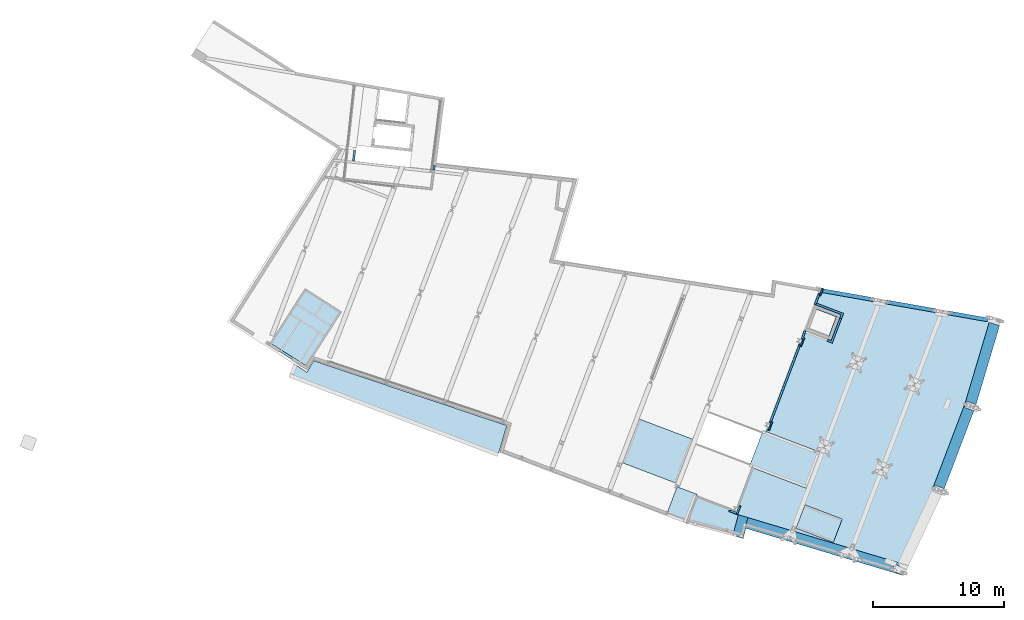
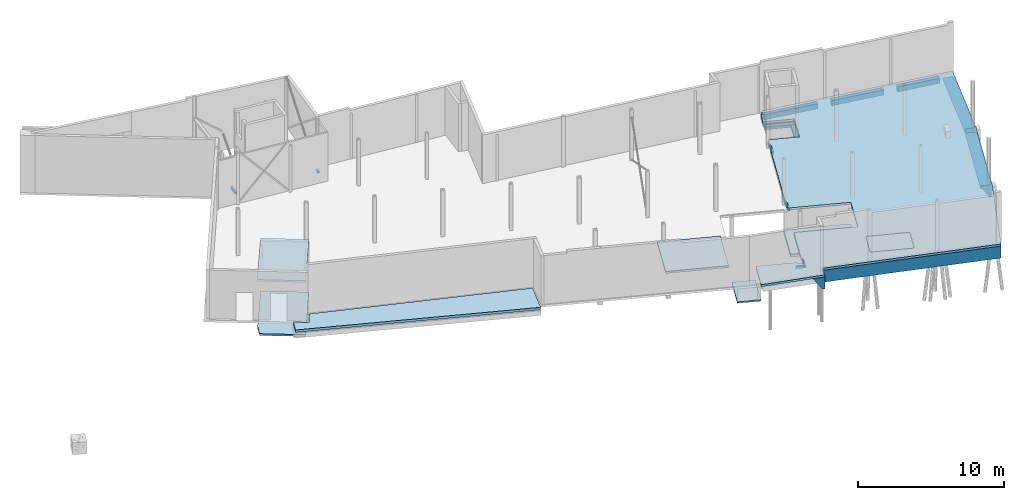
# One storey, part 41 of 46: 17 beams, 8 slabs, 1 opening.
"""IFC2X3 building model written with IfcOpenShell, lengths in millimetres."""

from ifc_helpers import new_model, entity, si_unit, converted_unit, derived_unit, direction, frame, frame_2d, origin, origin_2d_with_axis, place, context, subcontext, project, spatial, polyline, rectangle, i_section, outline, extrude, boolean, clip, halfspace, bounded_halfspace, faceted_brep, source, transform, mapped, material, layer, layer_set, layer_usage, type_object, type_shapes, element, save


model = new_model("IFC2X3")

# Units and contexts
model_context = context("Model", 3, precision=0.01, world=origin(), true_north=direction((6.123233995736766e-17, 1.0)))
body_context = subcontext(model_context, "Body", "Model", "MODEL_VIEW")
ifc_project = project(units=[si_unit("LENGTHUNIT", "METRE", prefix="MILLI"), converted_unit("PLANEANGLEUNIT", "DEGREE", entity("IfcPlaneAngleMeasure", 0.017453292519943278), si_unit("PLANEANGLEUNIT", "RADIAN"), dimensions=[0, 0, 0, 0, 0, 0, 0]), si_unit("AREAUNIT", "SQUARE_METRE"), derived_unit("THERMALTRANSMITTANCEUNIT", [(si_unit("MASSUNIT", "GRAM", prefix="KILO"), 1), (si_unit("THERMODYNAMICTEMPERATUREUNIT", "KELVIN"), -1), (si_unit("TIMEUNIT", "SECOND"), -3)])], contexts=[model_context])

# Site, building, storey
site_placement = place(None, frame((-72937.88054949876, 11621.45624098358, 0.0), z_axis=(0.0, 0.0, 1.0), x_axis=(0.9346418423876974, -0.35559053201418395, 0.0)))
site = spatial("IfcSite", under=ifc_project, at=site_placement, Name="Default", CompositionType="ELEMENT")
building_placement = place(site_placement, origin())
building = spatial("IfcBuilding", under=site, at=building_placement, CompositionType="ELEMENT")
storey_placement = place(building_placement, origin())
storey = spatial("IfcBuildingStorey", under=building, at=storey_placement, Name="00 begane grond", CompositionType="ELEMENT", Elevation=0.0)

# Beams
ifc_material_1 = material(Name="beton_gewapend_ihw")
beam_type_1 = type_object("IfcBeamType", Name="650x600mm", PredefinedType="BEAM")
beam_1_placement = place(storey_placement, frame((54024.99652518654, 13888.496124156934, -230.0), z_axis=(0.0, 0.0, 1.0), x_axis=(0.9973760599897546, 0.0723947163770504, 0.0)))
element("IfcBeam", 1, at=beam_1_placement, inside=storey, type_object=beam_type_1, material=ifc_material_1, Name="16.12_Beton balk", ObjectType="i.h.w.g. versterkte betonnen strook", context=body_context, shape_type="Brep", body=[
    faceted_brep([(60.35885689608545, 160.61884177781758, -1000.0), (60.35885689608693, -4.381158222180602, -1000.0), (60.358856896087, -4.381158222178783, 0.0), (60.35885689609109, 831.559012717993, 0.0), (3346.0760033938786, 831.5590127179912, 0.0), (3873.2242039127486, 831.5590127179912, 0.0), (8002.533172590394, 831.5590127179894, 0.0), (8692.066759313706, 831.5590127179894, 0.0), (12042.971070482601, 831.5590127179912, 0.0), (12887.956598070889, 831.559012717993, 0.0), (12837.613642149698, 490.2664680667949, -508.6780601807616), (12264.649775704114, 574.7825089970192, -382.7114768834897), (11848.318389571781, 636.1942009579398, -291.1806748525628), (11778.16781136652, 160.61884177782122, -1000.0), (9110.536932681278, 160.61884177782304, -1000.0), (7506.3275835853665, 160.61884177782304, -1000.0), (4067.3037914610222, 160.6188417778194, -1000.0), (3064.6729482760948, 160.61884177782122, -1000.0), (11775.354523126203, 141.54657466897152, -1000.0), (12764.649775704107, -4.381158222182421, -1000.0), (144.9886646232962, -4.381158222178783, -1000.0), (12764.649775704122, -4.38115822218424, 0.0), (144.98866462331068, -4.381158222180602, 0.0), (12837.613642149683, 490.26646806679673, 0.0), (11775.354523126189, 141.54657466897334, 0.0), (11848.318389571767, 636.1942009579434, 0.0)], [[[0, 1, 2, 3]], [[0, 3, 4, 5, 6, 7, 8, 9, 10, 11, 12, 13, 14, 15, 16, 17]], [[1, 0, 17, 16, 15, 14, 13, 18, 19, 20]], [[1, 20, 19, 21, 22, 2]], [[10, 9, 23]], [[3, 2, 22, 21, 24, 25, 23, 9, 8, 7, 6, 5, 4]], [[25, 12, 11, 10, 23]], [[12, 25, 24, 18, 13]], [[18, 24, 21, 19]]]),
])
beam_2_placement = place(storey_placement, frame((53254.13367415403, 13008.146273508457, -1230.0), z_axis=(0.0, 0.0, 1.0), x_axis=(-0.09778707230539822, 0.9952073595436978, 0.0)))
element("IfcBeam", 2, at=beam_2_placement, inside=storey, type_object=beam_type_1, material=ifc_material_1, Name="16.12_Beton balk", ObjectType="i.h.w.g. versterkte betonnen strook", context=body_context, shape_type="Brep", body=[
    faceted_brep([(961.9354018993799, -833.0851545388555, 0.0), (-11.622068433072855, -833.0851545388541, 0.0), (-14.078752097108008, -450.64925710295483, 570.0), (-15.932039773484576, -162.14498359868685, 1000.0), (284.0741499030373, -162.14498359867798, 1000.0), (1650.1964644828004, -162.1449835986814, 1000.0), (794.8323850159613, -913.4828292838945, 0.0), (792.6757864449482, -998.0851545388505, 0.0), (-10.562144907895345, -998.0851545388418, 0.0), (959.7788033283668, -917.687479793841, 0.0), (792.675786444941, -998.0851545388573, 1000.0), (-10.562144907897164, -998.0851545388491, 1000.0), (794.8323850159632, -913.4828292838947, 1000.0), (1630.501094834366, -934.7848672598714, 1000.0)], [[[0, 1, 2, 3, 4, 5]], [[6, 7, 8, 1, 0, 9]], [[8, 7, 10, 11]], [[7, 6, 12, 10]], [[1, 8, 11, 3, 2]], [[6, 9, 13, 12]], [[9, 0, 5, 13]], [[5, 4, 3, 11, 10, 12, 13]]]),
])
beam_3_placement = place(storey_placement, frame((66444.05998464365, 21898.50671689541, -1230.0), z_axis=(0.0, 0.0, 1.0), x_axis=(0.0, 1.0, 0.0)))
element("IfcBeam", 3, at=beam_3_placement, inside=storey, type_object=beam_type_1, material=ifc_material_1, Name="16.12_Beton balk", ObjectType="i.h.w.g. versterkte betonnen strook", context=body_context, shape_type="Brep", body=[
    faceted_brep([(3.18091874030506, 0.0, 1000.0), (6866.860322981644, 0.0, 1000.0), (6870.0412417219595, -85.94017094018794, 871.9108280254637), (6611.493283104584, -85.94017094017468, 871.9108280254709), (6611.493283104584, -670.9401709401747, 0.0), (231.49328310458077, -670.9401709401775, 0.0), (231.49328310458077, -85.94017094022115, 871.9108280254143), (0.0, -85.94017094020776, 871.9108280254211), (231.4932831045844, -835.9401709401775, 0.0), (6611.493283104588, -835.9401709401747, 0.0), (231.4932831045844, -835.9401709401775, 1000.0), (6611.493283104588, -835.9401709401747, 1000.0), (0.0, -85.94017094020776, 1000.0), (6870.0412417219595, -85.9401709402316, 1000.0), (231.49328310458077, -85.9401709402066, 1000.0), (6611.493283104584, -85.94017094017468, 1000.0)], [[[0, 1, 2, 3, 4, 5, 6, 7]], [[8, 5, 4, 9]], [[10, 8, 9, 11]], [[0, 7, 12]], [[2, 1, 13]], [[1, 0, 12, 14, 10, 11, 15, 13]], [[6, 5, 8, 10, 14]], [[3, 15, 11, 9, 4]], [[6, 14, 12, 7]], [[15, 3, 2, 13]]]),
])
beam_4_placement = place(storey_placement, frame((67280.00015558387, 28796.307841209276, -60.0), z_axis=(0.0, 0.0, 1.0), x_axis=(-0.07392507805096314, 0.9972637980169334, 0.0)))
element("IfcBeam", 4, at=beam_4_placement, inside=storey, type_object=beam_type_1, material=ifc_material_1, Name="16.12_Beton balk", ObjectType="i.h.w.g. versterkte betonnen strook", context=body_context, shape_type="SweptSolid", body=[
    clip(clip(clip(extrude(outline(polyline([(-500.0, -250.23504273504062), (500.0, -250.23504273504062), (500.0, -85.23504273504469), (-500.0, 585.7051282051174), (-500.0, -250.23504273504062)])), frame((27.759882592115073, 250.2350427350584, -670.0), z_axis=(1.0, 0.0, 0.0), x_axis=(0.0, 0.0, -1.0)), (0.0, 0.0, 1.0), 6513.466296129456), halfspace(frame((35.16251794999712, 950.0, 0.0), z_axis=(-0.999315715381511, 0.036987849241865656, 0.0), x_axis=(-0.036987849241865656, -0.999315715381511, 0.0)), False)), bounded_halfspace(frame((194.62618436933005, -265.11315902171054, 0.0), z_axis=(-0.9972637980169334, 0.07392507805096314, 0.0), x_axis=(0.0, 0.0, -1.0)), False, frame((27.759882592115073, 250.2350427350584, -670.0), z_axis=(1.0, 0.0, 0.0), x_axis=(0.0, 0.0, -1.0)), polyline([(-345.3073218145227, 481.9155962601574), (500.0, -85.23504273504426), (500.0, -250.2350427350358), (-500.0, -250.23504273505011), (-500.0, 481.91559626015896), (-345.3073218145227, 481.9155962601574)]))), bounded_halfspace(frame((268.5512624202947, 732.1506389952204, 0.0), z_axis=(-0.07392507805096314, -0.9972637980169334, 0.0), x_axis=(0.0, 0.0, -1.0)), False, frame((27.759882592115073, 250.2350427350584, -670.0), z_axis=(1.0, 0.0, 0.0), x_axis=(0.0, 0.0, -1.0)), polyline([(-345.3073218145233, 481.9155962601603), (-500.0, 481.91559626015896), (-500.0, 499.764957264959), (-371.9108280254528, 499.76495726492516), (-345.3073218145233, 481.9155962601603)]))),
])
beam_type_2 = type_object("IfcBeamType", Name="300x300mm", PredefinedType="BEAM", material=ifc_material_1)
shared_shape = source(origin(), body_context, "Body", "SweptSolid", [
    clip(extrude(rectangle(XDim=430.0000000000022, YDim=300.00000000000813, at=frame_2d((-1.1368683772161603e-13, -2.1316282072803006e-12), x_axis=(1.0, 0.0))), frame((53186.85544368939, 32989.17978897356, -445.0), z_axis=(0.9822397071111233, 0.18763037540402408, 0.0), x_axis=(0.0, 0.0, 1.0)), (0.0, 0.0, 1.0), 3943.295752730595), halfspace(frame((53215.0, 32800.3699589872, -230.0), z_axis=(-1.0, 0.0, 0.0), x_axis=(0.0, 0.0, -1.0)), False)),
    clip(extrude(rectangle(XDim=430.0000000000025, YDim=300.00000000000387, at=frame_2d((-1.4210854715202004e-13, 0.0), x_axis=(1.0, 0.0))), frame((62772.35681601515, 34820.23101598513, -445.0), z_axis=(0.9822397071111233, 0.18763037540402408, 0.0), x_axis=(0.0, 0.0, 1.0)), (0.0, 0.0, 1.0), 3087.4735184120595), halfspace(frame((65799.17570175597, 35245.710825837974, -60.0), z_axis=(0.9972637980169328, 0.07392507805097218, 0.0), x_axis=(0.0, 0.0, -1.0)), False)),
    extrude(rectangle(XDim=430.0000000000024, YDim=299.9999999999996, at=frame_2d((-1.2789769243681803e-13, 2.1316282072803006e-12), x_axis=(1.0, 0.0))), frame((58042.35681601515, 33916.69222679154, -445.0), z_axis=(0.9822397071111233, 0.18763037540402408, 0.0), x_axis=(0.0, 0.0, 1.0)), (0.0, 0.0, 1.0), 3815.5251368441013),
])
type_shapes(beam_type_2, [shared_shape])
beam_5_placement = place(storey_placement, origin())
element("IfcBeam", 5, at=beam_5_placement, inside=storey, type_object=beam_type_2, material=ifc_material_1, Name="16.12_Beton balk", ObjectType="i.h.w.g. betonnen balk", context=body_context, shape_type="MappedRepresentation", body=[
    mapped(shared_shape, transform((0.0, 0.0, 0.0), scale=1.0)),
])
beam_type_3 = type_object("IfcBeamType", Name="130x200mm", PredefinedType="BEAM")
beam_6_placement = place(storey_placement, frame((53065.0, 14645.0, -430.0), z_axis=(0.0, 0.0, 1.0), x_axis=(0.0, -1.0, 0.0)))
element("IfcBeam", 6, at=beam_6_placement, inside=storey, type_object=beam_type_3, material=ifc_material_1, Name="16.12_Beton balk", ObjectType="i.h.w.g. betonnen balk", context=body_context, shape_type="Brep", body=[
    faceted_brep([(-710.0, 130.0, 200.0), (-710.0, 130.0, 0.0), (-710.0, 15.0, 0.0), (-710.0, 15.0, 200.0), (0.0, 130.0, 200.0), (-580.0, 15.0, 200.0), (-580.0, 0.0, 200.0), (-130.0, 0.0, 200.0), (0.0, 0.0, 200.0), (0.0, 130.0, 0.0), (0.0, 0.0, 0.0), (-130.0, 0.0, 0.0), (-580.0, 0.0, 0.0), (-580.0, 15.0, 0.0)], [[[0, 1, 2, 3]], [[4, 0, 3, 5, 6, 7, 8]], [[1, 0, 4, 9]], [[1, 9, 10, 11, 12, 13, 2]], [[10, 8, 7, 6, 12, 11]], [[5, 13, 12, 6]], [[13, 5, 3, 2]], [[4, 8, 10, 9]]]),
])
beam_7_placement = place(storey_placement, frame((52485.0, 14645.0, -430.0), z_axis=(0.0, 0.0, 1.0), x_axis=(-1.0, 0.0, 0.0)))
element("IfcBeam", 7, at=beam_7_placement, inside=storey, type_object=beam_type_3, material=ifc_material_1, Name="16.12_Beton balk", ObjectType="i.h.w.g. betonnen balk", context=body_context, shape_type="Brep", body=[
    faceted_brep([(0.0, 0.0, 0.0), (0.0, 0.0, 200.0), (0.0, -115.0, 200.0), (0.0, -115.0, 0.0), (-580.0, 0.0, 200.0), (-580.0, -130.0, 200.0), (-130.0, -130.0, 200.0), (-130.0, -115.0, 200.0), (-580.0, 0.0, 0.0), (-580.0, -130.0, 0.0), (-130.0, -115.0, 0.0), (-130.0, -130.0, 0.0)], [[[0, 1, 2, 3]], [[4, 5, 6, 7, 2, 1]], [[1, 0, 8, 4]], [[9, 8, 0, 3, 10, 11]], [[5, 9, 11, 6]], [[5, 4, 8, 9]], [[10, 7, 6, 11]], [[7, 10, 3, 2]]]),
])
beam_8_placement = place(storey_placement, frame((53195.0, 22235.0, -230.0), z_axis=(0.0, 0.0, 1.0), x_axis=(0.0, -1.0, 0.0)))
element("IfcBeam", 8, at=beam_8_placement, inside=storey, type_object=beam_type_3, material=ifc_material_1, Name="16.12_Beton balk", ObjectType="i.h.w.g. betonnen balk", context=body_context, shape_type="SweptSolid", body=[
    extrude(rectangle(XDim=200.00000000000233, YDim=129.99999999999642, at=frame_2d((-2.1316282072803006e-14, 4.32720526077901e-12), x_axis=(1.0, 0.0))), frame((0.0, -65.0, -100.0), z_axis=(1.0, 0.0, 0.0), x_axis=(0.0, 0.0, -1.0)), (0.0, 0.0, 1.0), 710.0000000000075),
])
beam_9_placement = place(storey_placement, frame((53195.0, 29115.0, -230.0), z_axis=(0.0, 0.0, 1.0), x_axis=(0.0, -1.0, 0.0)))
element("IfcBeam", 9, at=beam_9_placement, inside=storey, type_object=beam_type_3, material=ifc_material_1, Name="16.12_Beton balk", ObjectType="i.h.w.g. betonnen balk", context=body_context, shape_type="SweptSolid", body=[
    extrude(rectangle(XDim=200.00000000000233, YDim=129.99999999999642, at=frame_2d((-2.1316282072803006e-14, -4.32720526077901e-12), x_axis=(1.0, 0.0))), frame((0.0, -65.0, -100.0), z_axis=(1.0, 0.0, 0.0), x_axis=(0.0, 0.0, -1.0)), (0.0, 0.0, 1.0), 710.0000000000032),
])
beam_10_placement = place(storey_placement, frame((53195.0, 33156.269201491, -230.0), z_axis=(0.0, 0.0, 1.0), x_axis=(0.0, -1.0, 0.0)))
element("IfcBeam", 10, at=beam_10_placement, inside=storey, type_object=beam_type_3, material=ifc_material_1, Name="16.12_Beton balk", ObjectType="i.h.w.g. betonnen balk", context=body_context, shape_type="SweptSolid", body=[
    extrude(rectangle(XDim=200.00000000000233, YDim=129.99999999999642, at=frame_2d((-2.1316282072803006e-14, 4.32720526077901e-12), x_axis=(1.0, 0.0))), frame((0.0, -65.0, -100.0), z_axis=(1.0, 0.0, 0.0), x_axis=(0.0, 0.0, -1.0)), (0.0, 0.0, 1.0), 580.0000000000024),
])
beam_11_placement = place(storey_placement, frame((52950.0, 22105.0, -430.0), z_axis=(0.0, 0.0, 1.0), x_axis=(0.0, -1.0, 0.0)))
element("IfcBeam", 11, at=beam_11_placement, inside=storey, type_object=beam_type_3, material=ifc_material_1, Name="16.12_Beton balk", ObjectType="i.h.w.g. betonnen balk", context=body_context, shape_type="Brep", body=[
    faceted_brep([(0.0, 0.0, 200.0), (0.0, 0.0, 0.0), (0.0, 115.0, 0.0), (0.0, 115.0, 200.0), (-6430.0, 0.0, 200.0), (-130.0, 115.0, 200.0), (-130.0, 130.0, 200.0), (-6300.0, 130.0, 200.0), (-6300.0, 115.0, 200.0), (-6430.0, 115.0, 200.0), (-130.0, 130.0, 0.0), (-6300.0, 130.0, 0.0), (-6430.0, 0.0, 0.0), (-6430.0, 115.0, 0.0), (-6300.0, 115.0, 0.0), (-130.0, 115.0, 0.0)], [[[0, 1, 2, 3]], [[4, 0, 3, 5, 6, 7, 8, 9]], [[6, 10, 11, 7]], [[1, 12, 13, 14, 11, 10, 15, 2]], [[1, 0, 4, 12]], [[5, 15, 10, 6]], [[15, 5, 3, 2]], [[14, 8, 7, 11]], [[8, 14, 13, 9]], [[12, 4, 9, 13]]]),
])
beam_12_placement = place(storey_placement, frame((52950.0, 31790.0, -430.0), z_axis=(0.0, 0.0, 1.0), x_axis=(0.0, -1.0, 0.0)))
element("IfcBeam", 12, at=beam_12_placement, inside=storey, type_object=beam_type_3, material=ifc_material_1, Name="16.12_Beton balk", ObjectType="i.h.w.g. betonnen balk", context=body_context, shape_type="Brep", body=[
    faceted_brep([(-916.2692014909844, 0.0, 0.0), (-916.2692014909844, 0.0, 200.0), (-916.2692014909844, 115.0, 200.0), (-916.2692014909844, 115.0, 0.0), (0.0, 0.0, 200.0), (0.0, 20.0, 200.0), (0.0, 130.0, 200.0), (-150.0, 130.0, 200.0), (-786.269201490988, 130.0, 200.0), (-786.269201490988, 115.0, 200.0), (0.0, 130.0, 120.0), (0.0, 130.0, 0.0), (-786.269201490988, 130.0, 0.0), (0.0, 0.0, 0.0), (-786.269201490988, 115.0, 0.0)], [[[0, 1, 2, 3]], [[1, 4, 5, 6, 7, 8, 9, 2]], [[6, 10, 11, 12, 8, 7]], [[13, 0, 3, 14, 12, 11]], [[1, 0, 13, 4]], [[14, 9, 8, 12]], [[9, 14, 3, 2]], [[4, 13, 11, 10, 6, 5]]]),
])
beam_13_placement = place(storey_placement, frame((52950.0, 28985.0, -430.0), z_axis=(0.0, 0.0, 1.0), x_axis=(0.0, -1.0, 0.0)))
element("IfcBeam", 13, at=beam_13_placement, inside=storey, type_object=beam_type_3, material=ifc_material_1, Name="16.12_Beton balk", ObjectType="i.h.w.g. betonnen balk", context=body_context, shape_type="Brep", body=[
    faceted_brep([(0.0, 0.0, 200.0), (0.0, 0.0, 0.0), (0.0, 115.0, 0.0), (0.0, 115.0, 200.0), (-655.0, 0.0, 200.0), (-130.0, 115.0, 200.0), (-130.0, 130.0, 200.0), (-505.0, 130.0, 200.0), (-655.0, 130.0, 200.0), (-655.0, 20.0, 200.0), (-655.0, 130.0, 0.0), (-655.0, 130.0, 120.0), (-130.0, 130.0, 0.0), (-655.0, 0.0, 0.0), (-130.0, 115.0, 0.0)], [[[0, 1, 2, 3]], [[4, 0, 3, 5, 6, 7, 8, 9]], [[10, 11, 8, 7, 6, 12]], [[1, 13, 10, 12, 14, 2]], [[1, 0, 4, 13]], [[5, 14, 12, 6]], [[14, 5, 3, 2]], [[4, 9, 8, 11, 10, 13]]]),
])
ifc_material_2 = material(Name="metaal_staal_generiek")
beam_type_4 = type_object("IfcBeamType", Name="HEA160", PredefinedType="BEAM")
beam_14_placement = place(storey_placement, frame((15967.134324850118, 30306.6842811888, -230.0), z_axis=(0.0, 0.0, 1.0), x_axis=(0.251017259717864, -0.9679826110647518, 0.0)))
element("IfcBeam", 14, at=beam_14_placement, inside=storey, type_object=beam_type_4, material=ifc_material_2, Name="28.11_Stalen balk HEA", ObjectType="stalen balk HEA profiel", context=body_context, shape_type="SweptSolid", body=[
    extrude(i_section(OverallWidth=159.99999999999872, OverallDepth=152.0, WebThickness=6.000000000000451, FlangeThickness=9.000000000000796, FilletRadius=15.000000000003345, at=frame_2d((5.897504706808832e-13, -2.0889956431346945e-12), x_axis=(0.0, 1.0))), frame((1.2570468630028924, -80.0, -76.0), z_axis=(1.0, 0.0, 0.0), x_axis=(0.0, 0.0, -1.0)), (0.0, 0.0, 1.0), 820.8733034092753),
])
beam_15_placement = place(storey_placement, frame((21919.74789944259, 31353.43993313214, -230.0), z_axis=(0.0, 0.0, 1.0), x_axis=(0.23473671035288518, -0.9720589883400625, 0.0)))
element("IfcBeam", 15, at=beam_15_placement, inside=storey, type_object=beam_type_4, material=ifc_material_2, Name="28.11_Stalen balk HEA", ObjectType="stalen balk HEA profiel", context=body_context, shape_type="SweptSolid", body=[
    extrude(i_section(OverallWidth=159.99999999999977, OverallDepth=151.99999999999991, WebThickness=6.000000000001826, FlangeThickness=9.000000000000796, FilletRadius=14.999999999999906, at=frame_2d((6.252776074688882e-13, 2.1032064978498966e-12), x_axis=(0.0, 1.0))), frame((1.2656903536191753, 80.0, -76.0), z_axis=(1.0, 0.0, 0.0), x_axis=(0.0, 0.0, -1.0)), (0.0, 0.0, 1.0), 337.2733034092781),
])
beam_type_5 = type_object("IfcBeamType", Name="300x400mm", PredefinedType="BEAM")
beam_16_placement = place(storey_placement, frame((53080.0, 31490.0, -230.0)))
element("IfcBeam", 16, at=beam_16_placement, inside=storey, type_object=beam_type_5, material=ifc_material_1, Name="16.12_Beton balk", ObjectType="i.h.w.g. betonnen balk", context=body_context, shape_type="Brep", body=[
    faceted_brep([(0.0, 450.0, -300.0), (0.0, 0.0, -300.0), (0.0, 0.0, -80.0), (0.0, 300.0, -80.0), (0.0, 300.0, 0.0), (0.0, 450.0, 0.0), (2230.0, 450.0, 0.0), (2080.0, 300.0, 0.0), (2080.0, 0.0, 0.0), (2230.0, 0.0, 0.0), (1780.0, 0.0, -300.0), (2230.0, 0.0, -300.0), (2080.0, 0.0, -80.0), (1780.0, 0.0, -80.0), (2230.0, 450.0, -300.0), (2080.0, 300.0, -80.0)], [[[0, 1, 2, 3, 4, 5]], [[6, 5, 4, 7, 8, 9]], [[1, 10, 11, 9, 8, 12, 13, 2]], [[1, 0, 14, 11, 10]], [[0, 5, 6, 14]], [[3, 15, 7, 4]], [[15, 3, 2, 13, 12]], [[6, 9, 11, 14]], [[15, 12, 8, 7]]]),
])
beam_17_placement = place(storey_placement, frame((54860.0, 29490.0, -530.0), z_axis=(0.0, 0.0, 1.0), x_axis=(0.0, -1.0, 0.0)))
element("IfcBeam", 17, at=beam_17_placement, inside=storey, type_object=beam_type_5, material=ifc_material_1, Name="16.12_Beton balk", ObjectType="i.h.w.g. betonnen balk", context=body_context, shape_type="Brep", body=[
    faceted_brep([(0.0, 0.0, 300.0), (0.0, 450.0, 300.0), (-2000.0, 450.0, 300.0), (-2000.0, 300.0, 300.0), (-150.0, 300.0, 300.0), (-150.0, 0.0, 300.0), (0.0, 450.0, 0.0), (-2000.0, 450.0, 0.0), (0.0, 0.0, 0.0), (-450.0, 0.0, 0.0), (-2000.0, 0.0, 0.0), (-150.0, 0.0, 220.0), (-450.0, 0.0, 220.0), (-2000.0, 0.0, 220.0), (-150.0, 300.0, 220.0), (-2000.0, 300.0, 220.0)], [[[0, 1, 2, 3, 4, 5]], [[1, 6, 7, 2]], [[6, 8, 9, 10, 7]], [[8, 0, 5, 11, 12, 13, 10, 9]], [[14, 4, 3, 15]], [[11, 14, 15, 13, 12]], [[1, 0, 8, 6]], [[14, 11, 5, 4]], [[3, 2, 7, 10, 13, 15]]]),
])

# Slab
ifc_layer_1 = layer(ifc_material_1, 120.0)
ifc_layer_set_1 = layer_set([ifc_layer_1], Name="Foundation Slab:13.22_SFO_Beton120mm")
ifc_layer_usage_1 = layer_usage(ifc_layer_set_1, "AXIS3", "POSITIVE", 0.0)
slab_type_1 = type_object("IfcSlabType", Name="13.22_SFO_Beton120mm", PredefinedType="BASESLAB", material=ifc_layer_set_1)
slab_1_placement = place(storey_placement, origin())
element("IfcSlab", 18, at=slab_1_placement, inside=storey, type_object=slab_type_1, material=ifc_layer_usage_1, Name="Foundation Slab:13.22_SFO_Beton120mm", ObjectType="Foundation Slab:13.22_SFO_Beton120mm", PredefinedType="BASESLAB", context=body_context, shape_type="SweptSolid", body=[
    extrude(rectangle(XDim=2377.017921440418, YDim=1630.0000000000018, at=frame_2d((0.0, 4.376943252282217e-12), x_axis=(1.0, 0.0))), frame((48925.0, 13811.491039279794, -1300.0), z_axis=(0.0, 0.0, -1.0), x_axis=(0.0, 1.0, 0.0)), (0.0, 0.0, 1.0), 120.00000000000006),
])

# Slab, opening
ifc_layer_2 = layer(ifc_material_1, 170.0)
ifc_layer_set_2 = layer_set([ifc_layer_2], Name="Floor:23.21_FL_Beton170mm")
ifc_layer_usage_2 = layer_usage(ifc_layer_set_2, "AXIS3", "POSITIVE", 0.0)
slab_type_2 = type_object("IfcSlabType", Name="23.21_vloer", PredefinedType="FLOOR", material=ifc_layer_set_2)
slab_2_placement = place(storey_placement, origin())
slab_2 = element("IfcSlab", 19, at=slab_2_placement, inside=storey, type_object=slab_type_2, material=ifc_layer_usage_2, Name="beton 250mm", ObjectType="{$type(\"IfcObjectType[Type]\")}", PredefinedType="FLOOR", context=body_context, shape_type="SweptSolid", body=[
    boolean("DIFFERENCE", extrude(outline(polyline([(-10313.701899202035, -5261.889204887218), (-8068.778935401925, -5261.889204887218), (-8068.778935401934, -2426.88920488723), (-8183.778935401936, -2426.88920488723), (-8183.778935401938, -1936.8892048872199), (-7693.778935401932, -1936.8892048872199), (-7693.778935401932, -2051.8892048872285), (-4518.778935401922, -2051.8892048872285), (-4518.778935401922, 2373.110795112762), (-1578.7789354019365, 2373.1107951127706), (-1578.7789354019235, -2051.88920488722), (-1303.7789354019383, -2051.88920488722), (-1303.7789354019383, -1936.8892048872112), (-813.7789354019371, -1936.8892048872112), (-813.7789354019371, -2051.889204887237), (5576.221064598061, -2051.8892048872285), (5576.221064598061, -1936.8892048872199), (6066.221064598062, -1936.8892048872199), (6066.221064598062, -2051.88920488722), (6701.2210645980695, -2051.88920488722), (6701.221064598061, 138.11079511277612), (8851.221064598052, 138.11079511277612), (8851.221064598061, -2051.8892048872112), (9747.490266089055, -2051.8892048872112), (9747.490266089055, -1936.8892048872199), (10183.656334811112, -1936.8892048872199), (12796.964501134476, 11743.705114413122), (5857.528905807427, 12258.110950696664), (-1068.032101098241, 12258.110950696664), (-8130.559273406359, 11734.580593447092), (-9044.15606031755, -851.9672839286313), (-9843.544361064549, -773.4209982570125), (-10313.701899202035, -5261.889204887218)])), frame((55021.88920488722, 22938.778935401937, -60.0), z_axis=(0.0, 0.0, -1.0), x_axis=(0.0, 1.0, 0.0)), (0.0, 0.0, 1.0), 170.0), extrude(rectangle(XDim=1900.0000000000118, YDim=3059.9999999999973, at=frame_2d((1.0800249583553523e-12, 0.0), x_axis=(1.0, 0.0))), frame((59275.0, 16230.0, -230.0), z_axis=(0.0, 0.0, 1.0), x_axis=(0.0, 1.0, 0.0)), (0.0, 0.0, 1.0), 170.0)),
])
opening_placement = place(slab_2_placement, origin())
element("IfcOpeningElement", 20, at=opening_placement, cuts=slab_2, Name="beton 250mm", ObjectType="Opening", context=body_context, shape_type="SweptSolid", body=[
    extrude(rectangle(XDim=1900.0000000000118, YDim=3059.9999999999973, at=frame_2d((1.0800249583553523e-12, 0.0), x_axis=(1.0, 0.0))), frame((59275.0, 16230.0, -60.0), z_axis=(0.0, 0.0, -1.0), x_axis=(0.0, 1.0, 0.0)), (0.0, 0.0, 1.0), 170.0),
])

# Slabs
ifc_material_3 = material(Name="beton_gewapend_ihw_c30/37")
ifc_layer_3 = layer(ifc_material_3, 250.00000000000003)
ifc_layer_set_3 = layer_set([ifc_layer_3], Name="Foundation Slab:13.22_SFO_Beton250mm-C30/37")
ifc_layer_usage_3 = layer_usage(ifc_layer_set_3, "AXIS3", "POSITIVE", 0.0)
slab_type_3 = type_object("IfcSlabType", Name="13.22_SFO_Beton250mm-C30/37", PredefinedType="BASESLAB", material=ifc_layer_set_3)
slab_3_placement = place(storey_placement, origin())
element("IfcSlab", 21, at=slab_3_placement, inside=storey, type_object=slab_type_3, material=ifc_layer_usage_3, Name="Foundation Slab:13.22_SFO_Beton250mm-C30/37", ObjectType="Foundation Slab:13.22_SFO_Beton250mm-C30/37", PredefinedType="BASESLAB", context=body_context, shape_type="SweptSolid", body=[
    extrude(rectangle(XDim=2939.9999999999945, YDim=4664.999999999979, at=frame_2d((2.1600499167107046e-12, 0.0), x_axis=(1.0, 0.0))), frame((55062.49999999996, 19890.0, -1850.0), z_axis=(0.0, 0.0, -1.0), x_axis=(0.0, 1.0, 0.0)), (0.0, 0.0, 1.0), 250.00000000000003),
])
ifc_layer_4 = layer(ifc_material_3, 170.0)
ifc_layer_set_4 = layer_set([ifc_layer_4], Name="Floor:23.21_FL_Beton170mm - C30/37")
ifc_layer_usage_4 = layer_usage(ifc_layer_set_4, "AXIS3", "POSITIVE", 0.0)
slab_type_4 = type_object("IfcSlabType", Name="23.21_vloer", PredefinedType="FLOOR", material=ifc_layer_set_4)
slab_4_placement = place(storey_placement, origin())
element("IfcSlab", 22, at=slab_4_placement, inside=storey, type_object=slab_type_4, material=ifc_layer_usage_4, Name="beton 250mm", ObjectType="{$type(\"IfcObjectType[Type]\")}", PredefinedType="FLOOR", context=body_context, shape_type="SweptSolid", body=[
    extrude(rectangle(XDim=3600.000000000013, YDim=4379.999999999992, at=origin_2d_with_axis()), frame((45745.0, 17025.0, -60.0), z_axis=(0.0, 0.0, -1.0), x_axis=(0.0, 1.0, 0.0)), (0.0, 0.0, 1.0), 170.0),
])
ifc_layer_usage_5 = layer_usage(ifc_layer_set_4, "AXIS3", "POSITIVE", 0.0)
slab_5_placement = place(storey_placement, origin())
element("IfcSlab", 23, at=slab_5_placement, inside=storey, type_object=slab_type_4, material=ifc_layer_usage_5, Name="beton 250mm", ObjectType="{$type(\"IfcObjectType[Type]\")}", PredefinedType="FLOOR", context=body_context, shape_type="SweptSolid", body=[
    extrude(rectangle(XDim=1900.0000000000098, YDim=3059.9999999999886, at=frame_2d((0.0, 4.320099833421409e-12), x_axis=(1.0, 0.0))), frame((59275.0, 16230.0, -60.0), z_axis=(0.0, 0.0, -1.0), x_axis=(0.0, 1.0, 0.0)), (0.0, 0.0, 1.0), 170.0),
])
ifc_layer_5 = layer(ifc_material_3, 200.0)
ifc_layer_set_5 = layer_set([ifc_layer_5], Name="Floor:23.21_FL_Beton200mm-C30/37")
ifc_layer_usage_6 = layer_usage(ifc_layer_set_5, "AXIS3", "POSITIVE", 0.0)
slab_type_5 = type_object("IfcSlabType", Name="23.21_vloer", PredefinedType="FLOOR", material=ifc_layer_set_5)
slab_6_placement = place(storey_placement, origin())
element("IfcSlab", 24, at=slab_6_placement, inside=storey, type_object=slab_type_5, material=ifc_layer_usage_6, Name="beton 250mm", ObjectType="{$type(\"IfcObjectType[Type]\")}", PredefinedType="FLOOR", context=body_context, shape_type="SweptSolid", body=[
    extrude(outline(polyline([(-970.3749169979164, -6017.236290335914), (-8.89719516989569, -6017.236290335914), (-226.39687740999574, -4949.891137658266), (779.6239050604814, -4788.57720558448), (1396.4200015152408, 10793.25752679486), (-970.3749169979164, 10979.683397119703), (-970.3749169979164, -6017.236290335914)])), frame((23465.25551337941, 13346.765758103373, -60.0), z_axis=(0.0, 0.0, -1.0), x_axis=(0.0, 1.0, 0.0)), (0.0, 0.0, 1.0), 200.0),
])
ifc_layer_6 = layer(ifc_material_3, 150.0)
ifc_layer_set_6 = layer_set([ifc_layer_6], Name="Floor:23.21_FL_Beton150mm-C30/37")
ifc_layer_usage_7 = layer_usage(ifc_layer_set_6, "AXIS3", "POSITIVE", 0.0)
slab_type_6 = type_object("IfcSlabType", Name="23.21_vloer", PredefinedType="FLOOR", material=ifc_layer_set_6)
slab_7_placement = place(storey_placement, origin())
element("IfcSlab", 25, at=slab_7_placement, inside=storey, type_object=slab_type_6, material=ifc_layer_usage_7, Name="beton 250mm", ObjectType="{$type(\"IfcObjectType[Type]\")}", PredefinedType="FLOOR", context=body_context, shape_type="SweptSolid", body=[
    extrude(outline(polyline([(-1611.3454355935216, -1886.1897993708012), (-740.9422728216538, -1886.1897993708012), (3431.1066100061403, -1014.8431006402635), (2752.3586454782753, 2235.0340048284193), (-1586.1964128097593, 1328.911921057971), (-2244.9811342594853, 1223.2767734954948), (-1611.3454355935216, -1886.1897993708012)])), frame((17111.189799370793, 15626.733974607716, -1250.0), z_axis=(0.0, 0.0, -1.0), x_axis=(0.0, 1.0, 0.0)), (0.0, 0.0, 1.0), 150.0),
])
ifc_layer_usage_8 = layer_usage(ifc_layer_set_6, "AXIS3", "POSITIVE", 0.0)
slab_8_placement = place(storey_placement, origin())
element("IfcSlab", 26, at=slab_8_placement, inside=storey, type_object=slab_type_6, material=ifc_layer_usage_8, Name="beton 250mm", ObjectType="{$type(\"IfcObjectType[Type]\")}", PredefinedType="FLOOR", context=body_context, shape_type="SweptSolid", body=[
    extrude(outline(polyline([(1627.322976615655, -1248.3268250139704), (2134.381748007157, -1248.3268250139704), (1993.886252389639, 2092.531652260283), (-2955.618863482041, 1860.2357551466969), (-2799.972113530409, -1456.113757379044), (1627.322976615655, -1248.3268250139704)])), frame((17465.167740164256, 15844.977548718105, 3150.0), z_axis=(0.0, 0.0, -1.0), x_axis=(-0.15832601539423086, -0.9873868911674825, 0.0)), (0.0, 0.0, 1.0), 149.99999999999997),
])

save(model, "model.ifc")
